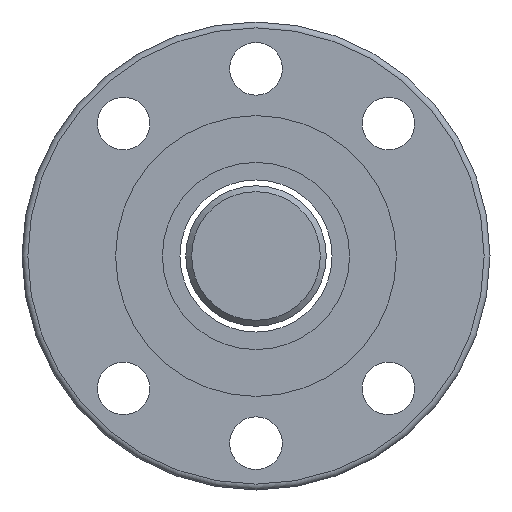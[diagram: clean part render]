
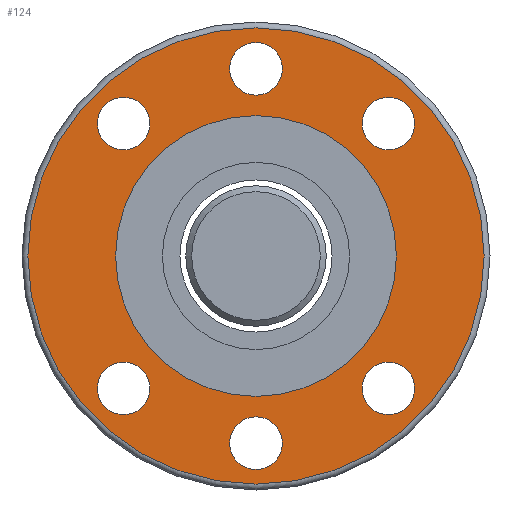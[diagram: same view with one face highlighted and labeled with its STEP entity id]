
A CAD part, left-side view. The second image highlights one B-rep face of the part: STEP entity #124.
In plain terms, the highlighted planar face has unit normal (-1, 0, 0).
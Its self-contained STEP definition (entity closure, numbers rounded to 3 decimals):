
#105=PLANE('',#415);
#114=FACE_OUTER_BOUND('',#215,.T.);
#124=ADVANCED_FACE('',(#158,#159,#160,#161,#162,#163,#114,#164),#105,.F.);
#158=FACE_BOUND('',#209,.T.);
#159=FACE_BOUND('',#210,.T.);
#160=FACE_BOUND('',#211,.T.);
#161=FACE_BOUND('',#212,.T.);
#162=FACE_BOUND('',#213,.T.);
#163=FACE_BOUND('',#214,.T.);
#164=FACE_BOUND('',#216,.T.);
#209=EDGE_LOOP('',(#265));
#210=EDGE_LOOP('',(#266));
#211=EDGE_LOOP('',(#267));
#212=EDGE_LOOP('',(#268));
#213=EDGE_LOOP('',(#269));
#214=EDGE_LOOP('',(#270));
#215=EDGE_LOOP('',(#271));
#216=EDGE_LOOP('',(#272));
#265=ORIENTED_EDGE('',*,*,#345,.T.);
#266=ORIENTED_EDGE('',*,*,#346,.T.);
#267=ORIENTED_EDGE('',*,*,#347,.T.);
#268=ORIENTED_EDGE('',*,*,#348,.T.);
#269=ORIENTED_EDGE('',*,*,#349,.T.);
#270=ORIENTED_EDGE('',*,*,#350,.T.);
#271=ORIENTED_EDGE('',*,*,#351,.F.);
#272=ORIENTED_EDGE('',*,*,#352,.T.);
#317=VERTEX_POINT('',#568);
#318=VERTEX_POINT('',#570);
#319=VERTEX_POINT('',#572);
#320=VERTEX_POINT('',#574);
#321=VERTEX_POINT('',#576);
#322=VERTEX_POINT('',#578);
#323=VERTEX_POINT('',#580);
#324=VERTEX_POINT('',#582);
#345=EDGE_CURVE('',#317,#317,#373,.T.);
#346=EDGE_CURVE('',#318,#318,#374,.T.);
#347=EDGE_CURVE('',#319,#319,#375,.T.);
#348=EDGE_CURVE('',#320,#320,#376,.T.);
#349=EDGE_CURVE('',#321,#321,#377,.T.);
#350=EDGE_CURVE('',#322,#322,#378,.T.);
#351=EDGE_CURVE('',#323,#323,#379,.T.);
#352=EDGE_CURVE('',#324,#324,#380,.T.);
#373=CIRCLE('',#407,2.25);
#374=CIRCLE('',#408,2.25);
#375=CIRCLE('',#409,2.25);
#376=CIRCLE('',#410,2.25);
#377=CIRCLE('',#411,2.25);
#378=CIRCLE('',#412,2.25);
#379=CIRCLE('',#413,19.5);
#380=CIRCLE('',#414,12.);
#407=AXIS2_PLACEMENT_3D('',#567,#469,#470);
#408=AXIS2_PLACEMENT_3D('',#569,#471,#472);
#409=AXIS2_PLACEMENT_3D('',#571,#473,#474);
#410=AXIS2_PLACEMENT_3D('',#573,#475,#476);
#411=AXIS2_PLACEMENT_3D('',#575,#477,#478);
#412=AXIS2_PLACEMENT_3D('',#577,#479,#480);
#413=AXIS2_PLACEMENT_3D('',#579,#481,#482);
#414=AXIS2_PLACEMENT_3D('',#581,#483,#484);
#415=AXIS2_PLACEMENT_3D('',#583,#485,#486);
#469=DIRECTION('',(1.,0.,0.));
#470=DIRECTION('',(0.,1.,0.));
#471=DIRECTION('',(1.,0.,0.));
#472=DIRECTION('',(0.,1.,0.));
#473=DIRECTION('',(1.,0.,0.));
#474=DIRECTION('',(0.,1.,0.));
#475=DIRECTION('',(1.,0.,0.));
#476=DIRECTION('',(0.,1.,0.));
#477=DIRECTION('',(1.,0.,0.));
#478=DIRECTION('',(0.,1.,0.));
#479=DIRECTION('',(1.,0.,0.));
#480=DIRECTION('',(0.,1.,0.));
#481=DIRECTION('',(1.,0.,0.));
#482=DIRECTION('',(0.,1.,0.));
#483=DIRECTION('',(1.,0.,0.));
#484=DIRECTION('',(0.,1.,0.));
#485=DIRECTION('',(1.,0.,0.));
#486=DIRECTION('',(0.,1.,0.));
#567=CARTESIAN_POINT('',(-25.,0.,-16.));
#568=CARTESIAN_POINT('',(-25.,2.25,-16.));
#569=CARTESIAN_POINT('',(-25.,0.,16.));
#570=CARTESIAN_POINT('',(-25.,2.25,16.));
#571=CARTESIAN_POINT('',(-25.,11.314,-11.314));
#572=CARTESIAN_POINT('',(-25.,13.564,-11.314));
#573=CARTESIAN_POINT('',(-25.,-11.314,-11.314));
#574=CARTESIAN_POINT('',(-25.,-9.064,-11.314));
#575=CARTESIAN_POINT('',(-25.,-11.314,11.314));
#576=CARTESIAN_POINT('',(-25.,-9.064,11.314));
#577=CARTESIAN_POINT('',(-25.,11.314,11.314));
#578=CARTESIAN_POINT('',(-25.,13.564,11.314));
#579=CARTESIAN_POINT('',(-25.,0.,0.));
#580=CARTESIAN_POINT('',(-25.,19.5,0.));
#581=CARTESIAN_POINT('',(-25.,0.,0.));
#582=CARTESIAN_POINT('',(-25.,12.,0.));
#583=CARTESIAN_POINT('',(-25.,15.75,0.));
